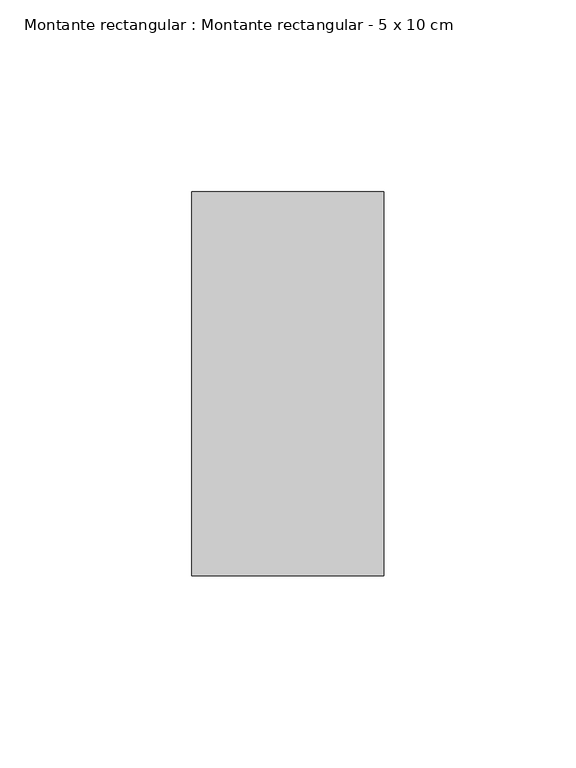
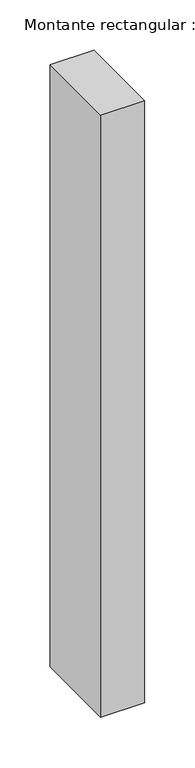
"""IFC4 building model written with IfcOpenShell, lengths in millimetres: member geometry, Montante rectangular : Montante rectangular - 5 x 10 cm."""

from ifc_helpers import new_model, si_unit, frame, origin, place, context, project, spatial, polyline, outline, extrude, source, transform, mapped, element, save


def montante_rectangular_montante_rectangular_5_x_10_cm_bbf3a9fb(model_context):
    return source(origin(), model_context, "Body", "SweptSolid", [
        extrude(outline(polyline([(0.0, 50.0), (0.0, -50.0), (-50.0, -50.0), (-50.0, 50.0), (0.0, 50.0)])), frame((0.0, 0.0, -728.8396072), z_axis=(0.0, 0.0, 1.0), x_axis=(1.0, 0.0, 0.0)), (0.0, 0.0, 1.0), 728.8396072),
    ])


if __name__ == "__main__":
    model = new_model("IFC4")
    model_context = context("Model", 3, world=origin())
    ifc_project = project(units=[si_unit("LENGTHUNIT", "METRE", prefix="MILLI")], contexts=[model_context])
    site = spatial("IfcSite", under=ifc_project)
    building = spatial("IfcBuilding", under=site)
    placement = place(None, origin())
    montante_rectangular_montante_rectangular_5_x_10_cm_shape = montante_rectangular_montante_rectangular_5_x_10_cm_bbf3a9fb(model_context)
    element("IfcMember", 1, ObjectType="Montante rectangular : Montante rectangular - 5 x 10 cm", at=placement, inside=building, context=model_context, shape_type="MappedRepresentation", body=[
        mapped(montante_rectangular_montante_rectangular_5_x_10_cm_shape, transform((0.0, 0.0, 0.0), x_axis=(1.0, 0.0, 0.0), y_axis=(0.0, 1.0, 0.0), z_axis=(0.0, 0.0, 1.0))),
    ])
    save(model, "model.ifc")
